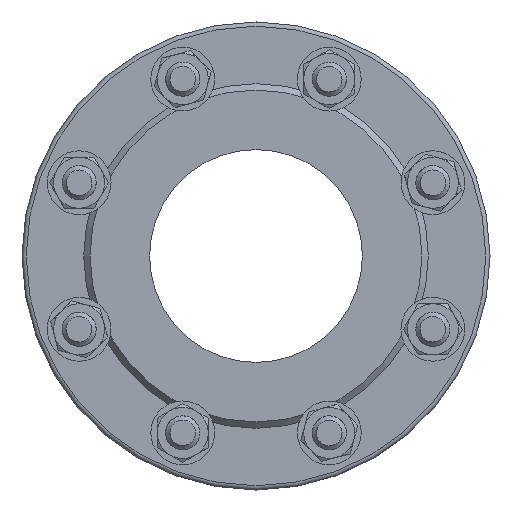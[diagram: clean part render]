
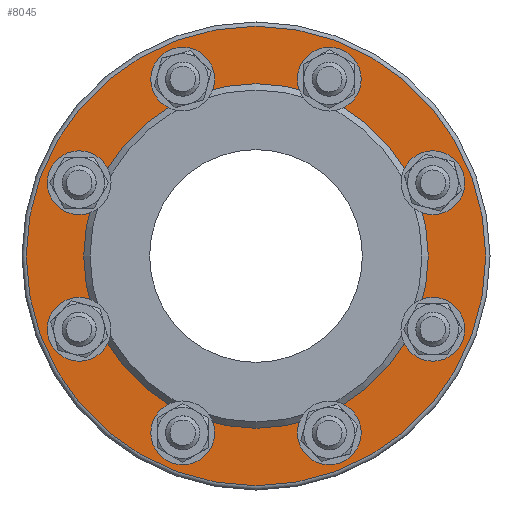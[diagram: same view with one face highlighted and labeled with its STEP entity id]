
A CAD part, left-side view. The second image highlights one B-rep face of the part: STEP entity #8045.
In plain terms, the highlighted planar face has unit normal (-1, 0, 0).
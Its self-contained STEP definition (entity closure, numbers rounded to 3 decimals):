
#7 = DIRECTION ( 'NONE',  ( 1., 0., 0. ) ) ;
#100 = DIRECTION ( 'NONE',  ( 0., 0., -1. ) ) ;
#254 = DIRECTION ( 'NONE',  ( -1., 0., 0. ) ) ;
#371 = DIRECTION ( 'NONE',  ( 0., 0., -1. ) ) ;
#540 = CARTESIAN_POINT ( 'NONE',  ( -58., -83.149, 34.442 ) ) ;
#619 = ORIENTED_EDGE ( 'NONE', *, *, #21121, .F. ) ;
#1087 = CARTESIAN_POINT ( 'NONE',  ( -58., 0., 81. ) ) ;
#1244 = EDGE_CURVE ( 'NONE', #15640, #15640, #6669, .T. ) ;
#1291 = ORIENTED_EDGE ( 'NONE', *, *, #14556, .F. ) ;
#1535 = AXIS2_PLACEMENT_3D ( 'NONE', #19867, #7, #15654 ) ;
#1558 = DIRECTION ( 'NONE',  ( 0., 0., -1. ) ) ;
#1628 = AXIS2_PLACEMENT_3D ( 'NONE', #28298, #17654, #15481 ) ;
#1889 = CARTESIAN_POINT ( 'NONE',  ( -58., -83.149, -42.442 ) ) ;
#2041 = FACE_OUTER_BOUND ( 'NONE', #26350, .T. ) ;
#2083 = CIRCLE ( 'NONE', #19692, 8. ) ;
#2148 = CARTESIAN_POINT ( 'NONE',  ( -58., 83.149, 26.442 ) ) ;
#2329 = FACE_BOUND ( 'NONE', #12538, .T. ) ;
#2543 = CARTESIAN_POINT ( 'NONE',  ( -58., 0., 0. ) ) ;
#2588 = DIRECTION ( 'NONE',  ( 0., 0., -1. ) ) ;
#2658 = CARTESIAN_POINT ( 'NONE',  ( -58., -34.442, 83.149 ) ) ;
#2862 = CARTESIAN_POINT ( 'NONE',  ( -58., 83.149, 34.442 ) ) ;
#3147 = CIRCLE ( 'NONE', #10476, 8. ) ;
#3350 = CARTESIAN_POINT ( 'NONE',  ( -58., 0., 0. ) ) ;
#4034 = DIRECTION ( 'NONE',  ( -1., 0., 0. ) ) ;
#4436 = DIRECTION ( 'NONE',  ( -1., 0., 0. ) ) ;
#4743 = DIRECTION ( 'NONE',  ( -1., 0., 0. ) ) ;
#5420 = EDGE_LOOP ( 'NONE', ( #20915 ) ) ;
#5537 = CARTESIAN_POINT ( 'NONE',  ( -58., 34.442, -83.149 ) ) ;
#6174 = EDGE_LOOP ( 'NONE', ( #10615 ) ) ;
#6327 = AXIS2_PLACEMENT_3D ( 'NONE', #2862, #16607, #27066 ) ;
#6391 = FACE_BOUND ( 'NONE', #24775, .T. ) ;
#6624 = CARTESIAN_POINT ( 'NONE',  ( -58., -34.442, -91.149 ) ) ;
#6669 = CIRCLE ( 'NONE', #22860, 8. ) ;
#6958 = PLANE ( 'NONE',  #1535 ) ;
#7190 = CARTESIAN_POINT ( 'NONE',  ( -58., -34.442, 75.149 ) ) ;
#7287 = DIRECTION ( 'NONE',  ( -1., 0., 0. ) ) ;
#8045 = ADVANCED_FACE ( 'NONE', ( #11454, #26247, #2329, #28569, #11029, #6391, #15222, #8836, #2041, #26672 ), #6958, .F. ) ;
#8070 = VERTEX_POINT ( 'NONE', #12428 ) ;
#8361 = AXIS2_PLACEMENT_3D ( 'NONE', #2543, #4436, #371 ) ;
#8836 = FACE_BOUND ( 'NONE', #6174, .T. ) ;
#9764 = EDGE_CURVE ( 'NONE', #8070, #8070, #20847, .T. ) ;
#9881 = EDGE_LOOP ( 'NONE', ( #619 ) ) ;
#9939 = EDGE_LOOP ( 'NONE', ( #13750 ) ) ;
#10058 = CIRCLE ( 'NONE', #19781, 81. ) ;
#10130 = EDGE_LOOP ( 'NONE', ( #21035 ) ) ;
#10476 = AXIS2_PLACEMENT_3D ( 'NONE', #2658, #7287, #26850 ) ;
#10500 = EDGE_CURVE ( 'NONE', #16912, #16912, #26366, .T. ) ;
#10602 = DIRECTION ( 'NONE',  ( -1., 0., 0. ) ) ;
#10615 = ORIENTED_EDGE ( 'NONE', *, *, #1244, .F. ) ;
#11029 = FACE_BOUND ( 'NONE', #10130, .T. ) ;
#11419 = EDGE_LOOP ( 'NONE', ( #20817 ) ) ;
#11454 = FACE_BOUND ( 'NONE', #9939, .T. ) ;
#12052 = ORIENTED_EDGE ( 'NONE', *, *, #17178, .F. ) ;
#12181 = DIRECTION ( 'NONE',  ( 0., 0., 1. ) ) ;
#12428 = CARTESIAN_POINT ( 'NONE',  ( -58., 0., -108. ) ) ;
#12538 = EDGE_LOOP ( 'NONE', ( #12052 ) ) ;
#13163 = CIRCLE ( 'NONE', #25715, 8. ) ;
#13316 = EDGE_CURVE ( 'NONE', #26472, #26472, #27600, .T. ) ;
#13750 = ORIENTED_EDGE ( 'NONE', *, *, #26652, .F. ) ;
#13868 = EDGE_LOOP ( 'NONE', ( #1291 ) ) ;
#14232 = CIRCLE ( 'NONE', #1628, 8. ) ;
#14239 = EDGE_CURVE ( 'NONE', #22141, #22141, #14232, .T. ) ;
#14318 = ORIENTED_EDGE ( 'NONE', *, *, #14239, .F. ) ;
#14556 = EDGE_CURVE ( 'NONE', #19674, #19674, #2083, .T. ) ;
#15222 = FACE_BOUND ( 'NONE', #5420, .T. ) ;
#15481 = DIRECTION ( 'NONE',  ( 0., 0., -1. ) ) ;
#15492 = CIRCLE ( 'NONE', #24290, 8. ) ;
#15640 = VERTEX_POINT ( 'NONE', #1889 ) ;
#15654 = DIRECTION ( 'NONE',  ( 0., 0., -1. ) ) ;
#15706 = VERTEX_POINT ( 'NONE', #22241 ) ;
#16607 = DIRECTION ( 'NONE',  ( -1., 0., 0. ) ) ;
#16912 = VERTEX_POINT ( 'NONE', #20978 ) ;
#17105 = AXIS2_PLACEMENT_3D ( 'NONE', #540, #18213, #2588 ) ;
#17178 = EDGE_CURVE ( 'NONE', #20375, #20375, #3147, .T. ) ;
#17654 = DIRECTION ( 'NONE',  ( -1., 0., 0. ) ) ;
#17776 = CARTESIAN_POINT ( 'NONE',  ( -58., 83.149, -34.442 ) ) ;
#17932 = CARTESIAN_POINT ( 'NONE',  ( -58., -83.149, -34.442 ) ) ;
#18213 = DIRECTION ( 'NONE',  ( -1., 0., 0. ) ) ;
#19492 = VERTEX_POINT ( 'NONE', #28335 ) ;
#19674 = VERTEX_POINT ( 'NONE', #6624 ) ;
#19692 = AXIS2_PLACEMENT_3D ( 'NONE', #28369, #4034, #1558 ) ;
#19781 = AXIS2_PLACEMENT_3D ( 'NONE', #3350, #25819, #12181 ) ;
#19867 = CARTESIAN_POINT ( 'NONE',  ( -58., 110., 0. ) ) ;
#20375 = VERTEX_POINT ( 'NONE', #7190 ) ;
#20817 = ORIENTED_EDGE ( 'NONE', *, *, #10500, .F. ) ;
#20847 = CIRCLE ( 'NONE', #8361, 108. ) ;
#20915 = ORIENTED_EDGE ( 'NONE', *, *, #27198, .F. ) ;
#20978 = CARTESIAN_POINT ( 'NONE',  ( -58., -83.149, 26.442 ) ) ;
#21035 = ORIENTED_EDGE ( 'NONE', *, *, #13316, .F. ) ;
#21121 = EDGE_CURVE ( 'NONE', #23123, #23123, #10058, .T. ) ;
#22141 = VERTEX_POINT ( 'NONE', #28233 ) ;
#22241 = CARTESIAN_POINT ( 'NONE',  ( -58., 34.442, -91.149 ) ) ;
#22703 = DIRECTION ( 'NONE',  ( 0., 0., -1. ) ) ;
#22860 = AXIS2_PLACEMENT_3D ( 'NONE', #17932, #254, #100 ) ;
#23123 = VERTEX_POINT ( 'NONE', #1087 ) ;
#23650 = DIRECTION ( 'NONE',  ( 0., 0., -1. ) ) ;
#24290 = AXIS2_PLACEMENT_3D ( 'NONE', #17776, #4743, #22703 ) ;
#24775 = EDGE_LOOP ( 'NONE', ( #14318 ) ) ;
#25715 = AXIS2_PLACEMENT_3D ( 'NONE', #5537, #10602, #23650 ) ;
#25819 = DIRECTION ( 'NONE',  ( -1., 0., 0. ) ) ;
#26247 = FACE_BOUND ( 'NONE', #13868, .T. ) ;
#26289 = ORIENTED_EDGE ( 'NONE', *, *, #9764, .T. ) ;
#26350 = EDGE_LOOP ( 'NONE', ( #26289 ) ) ;
#26366 = CIRCLE ( 'NONE', #17105, 8. ) ;
#26472 = VERTEX_POINT ( 'NONE', #2148 ) ;
#26652 = EDGE_CURVE ( 'NONE', #19492, #19492, #15492, .T. ) ;
#26672 = FACE_BOUND ( 'NONE', #9881, .T. ) ;
#26850 = DIRECTION ( 'NONE',  ( 0., 0., -1. ) ) ;
#27066 = DIRECTION ( 'NONE',  ( 0., 0., -1. ) ) ;
#27198 = EDGE_CURVE ( 'NONE', #15706, #15706, #13163, .T. ) ;
#27600 = CIRCLE ( 'NONE', #6327, 8. ) ;
#28233 = CARTESIAN_POINT ( 'NONE',  ( -58., 34.442, 75.149 ) ) ;
#28298 = CARTESIAN_POINT ( 'NONE',  ( -58., 34.442, 83.149 ) ) ;
#28335 = CARTESIAN_POINT ( 'NONE',  ( -58., 83.149, -42.442 ) ) ;
#28369 = CARTESIAN_POINT ( 'NONE',  ( -58., -34.442, -83.149 ) ) ;
#28569 = FACE_BOUND ( 'NONE', #11419, .T. ) ;
